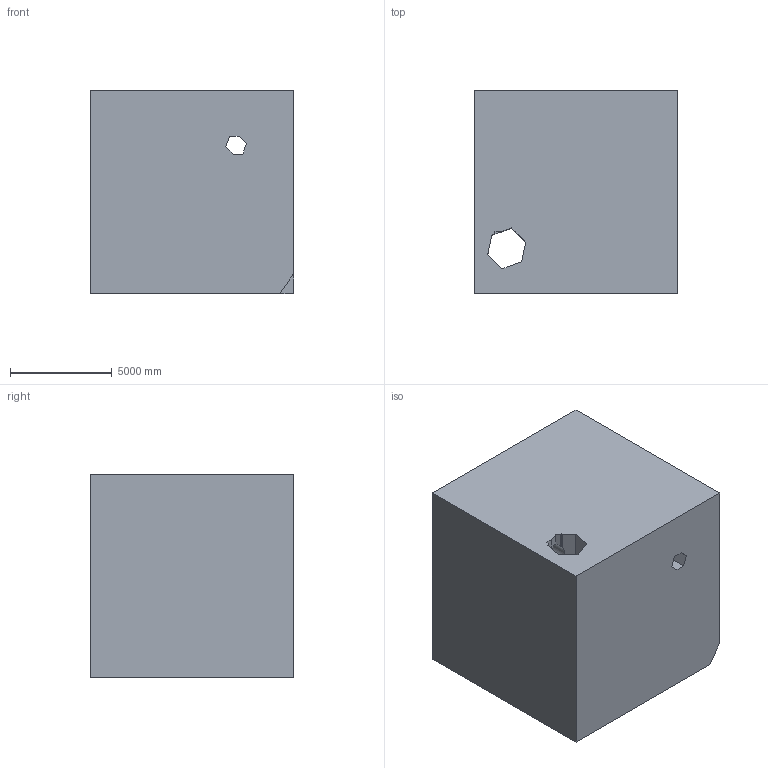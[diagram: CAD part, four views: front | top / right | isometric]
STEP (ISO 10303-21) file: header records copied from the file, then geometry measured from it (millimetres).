
FILE_DESCRIPTION (( 'STEP AP203' ), '1' );
FILE_NAME ('157.STEP', '2022-09-06T15:15:54', ( 'user' ), ( '' ), 'SwSTEP 2.0', 'SolidWorks 2021', '' );
FILE_SCHEMA (( 'CONFIG_CONTROL_DESIGN' ));
Length unit declared in the file: centimetre
Products named in the file (1): 157
Bounding box: 10000 x 10000 x 10000 mm (x, y, z)
Volume: 941087197014.9 mm3; surface area: 761024204.7 mm2
Topology: 1 solids, 1 shells, 41 faces, 114 edges, 76 vertices
Faces by surface type: plane 33, cylinder 8
Entity records: 1392 total; most frequent: CARTESIAN_POINT 265, ORIENTED_EDGE 228, DIRECTION 202, EDGE_CURVE 114, LINE 88, VECTOR 88, VERTEX_POINT 76, AXIS2_PLACEMENT_3D 57
